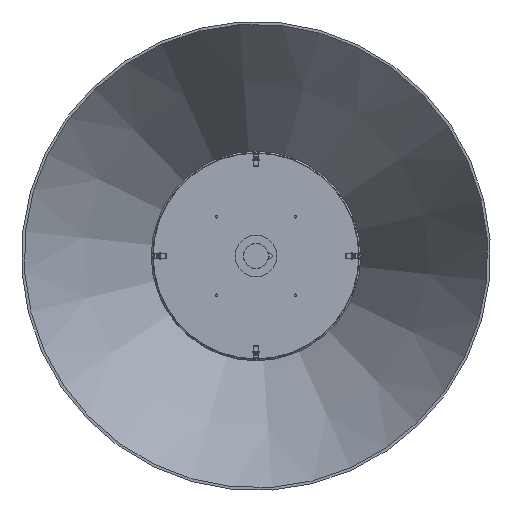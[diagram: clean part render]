
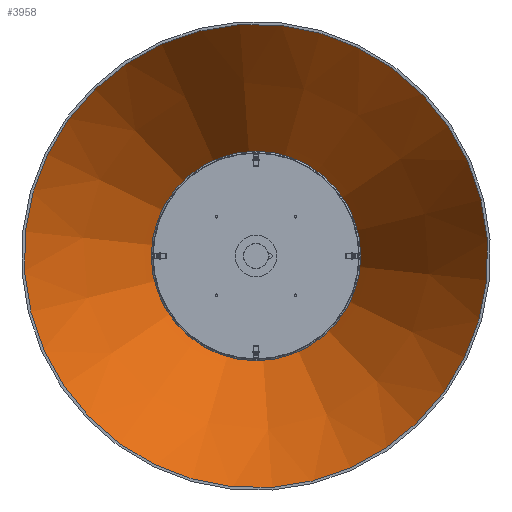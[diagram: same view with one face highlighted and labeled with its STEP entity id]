
A CAD part, front view. The second image highlights one B-rep face of the part: STEP entity #3958.
In plain terms, the highlighted conical face has half-angle 29.927 degrees and reference radius 154.648 mm.
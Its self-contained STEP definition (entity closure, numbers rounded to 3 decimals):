
#195=CONICAL_SURFACE('',#4288,154.648,0.522);
#255=FACE_OUTER_BOUND('',#504,.T.);
#504=EDGE_LOOP('',(#2674,#2675,#2676,#2677));
#738=LINE('',#6100,#1056);
#1056=VECTOR('',#4911,154.648);
#1390=CIRCLE('',#4286,253.086);
#1392=CIRCLE('',#4289,56.21);
#1628=VERTEX_POINT('',#6093);
#1630=VERTEX_POINT('',#6098);
#2025=EDGE_CURVE('',#1628,#1628,#1390,.T.);
#2027=EDGE_CURVE('',#1630,#1630,#1392,.T.);
#2028=EDGE_CURVE('',#1630,#1628,#738,.T.);
#2674=ORIENTED_EDGE('',*,*,#2027,.F.);
#2675=ORIENTED_EDGE('',*,*,#2028,.T.);
#2676=ORIENTED_EDGE('',*,*,#2025,.T.);
#2677=ORIENTED_EDGE('',*,*,#2028,.F.);
#3958=ADVANCED_FACE('',(#255),#195,.T.);
#4286=AXIS2_PLACEMENT_3D('',#6094,#4903,#4904);
#4288=AXIS2_PLACEMENT_3D('',#6097,#4907,#4908);
#4289=AXIS2_PLACEMENT_3D('',#6099,#4909,#4910);
#4903=DIRECTION('center_axis',(0.,1.,0.));
#4904=DIRECTION('ref_axis',(-0.994,0.,0.105));
#4907=DIRECTION('center_axis',(0.,-1.,0.));
#4908=DIRECTION('ref_axis',(0.994,0.,-0.105));
#4909=DIRECTION('center_axis',(0.,1.,0.));
#4910=DIRECTION('ref_axis',(-0.994,0.,0.105));
#4911=DIRECTION('',(-0.496,-0.867,0.052));
#6093=CARTESIAN_POINT('',(-251.693,-198.5,26.518));
#6094=CARTESIAN_POINT('Origin',(0.,-198.5,
0.));
#6097=CARTESIAN_POINT('Origin',(0.,-27.5,
0.));
#6098=CARTESIAN_POINT('',(-55.9,143.5,5.89));
#6099=CARTESIAN_POINT('Origin',(0.,143.5,
0.));
#6100=CARTESIAN_POINT('',(-153.797,-27.5,16.204));
